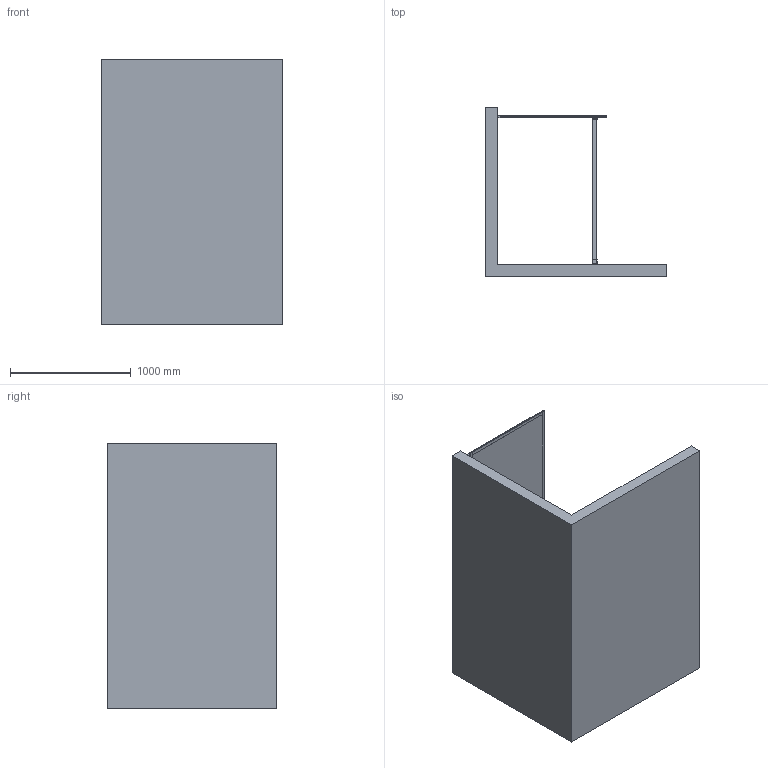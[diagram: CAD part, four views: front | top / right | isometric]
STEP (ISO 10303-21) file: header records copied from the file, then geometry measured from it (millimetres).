
FILE_DESCRIPTION((''),'2;1');
FILE_NAME('0-W703510-5_ASM','2022-06-07T15:22:08',('M'),(''),'CREO PARAMETRIC BY PTC INC, 2017110','CREO PARAMETRIC BY PTC INC, 2017110','');
FILE_SCHEMA(('CONFIG_CONTROL_DESIGN'));
Length unit declared in the file: millimetre
Products named in the file (16): 00; U-0001; U-0002; 00_ASM; 004; 0047; 0046; M4-5; 20002; 0; YTZG_ST4X25; 0-W703510-5_ASM
Assembly tree (24 placements, depth 3):
  0-W703510-5_ASM
    00
    00_ASM
      00
      U-0001  x2
      U-0002  x2
    004
    00
    00
    0047
    0046
    M4-5  x6
    20002
    0
    00
    YTZG_ST4X25  x3
Bounding box: 1500 x 1400 x 2200 mm (x, y, z)
Volume: 633085303.9 mm3; surface area: 17607362.2 mm2
Topology: 23 solids, 23 shells, 608 faces, 1517 edges, 968 vertices
Faces by surface type: cylinder 270, plane 208, bspline 96, cone 22, torus 12
Entity records: 14474 total; most frequent: CARTESIAN_POINT 7931, ORIENTED_EDGE 1318, DIRECTION 1230, EDGE_CURVE 659, AXIS2_PLACEMENT_3D 427, VERTEX_POINT 426, VECTOR 376, LINE 376
